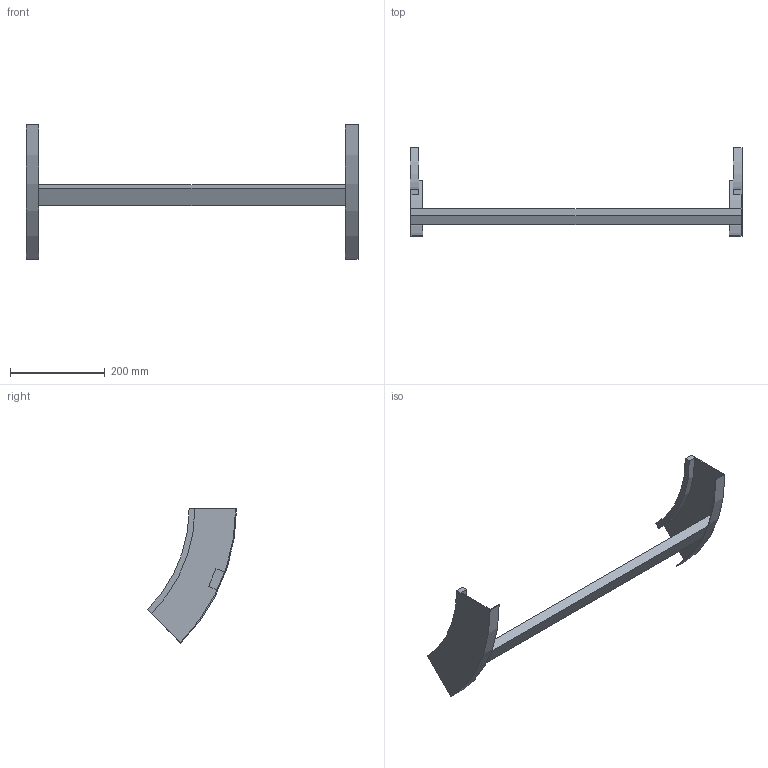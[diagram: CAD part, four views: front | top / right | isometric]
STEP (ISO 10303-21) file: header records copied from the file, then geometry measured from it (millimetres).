
FILE_DESCRIPTION (( 'STEP AP214' ), '1' );
FILE_NAME ('B2X31B3D700XX.step', '2025-03-20T10:05:28', ( '' ), ( '' ), 'SwSTEP 2.0', 'SolidWorks 2023', '' );
FILE_SCHEMA (( 'AUTOMOTIVE_DESIGN' ));
Length unit declared in the file: millimetre
Products named in the file (3): B2X31B3D700XX; TRAVERSINO_700; B2_LONGH.SALITA_45°_H100_R300
Assembly tree (3 placements, depth 2):
  B2X31B3D700XX
    B2_LONGH.SALITA_45°_H100_R300  x2
    TRAVERSINO_700
Bounding box: 700 x 187.87 x 282.84 mm (x, y, z)
Volume: 797340.6 mm3; surface area: 246477.5 mm2
Topology: 3 solids, 3 shells, 26 faces, 60 edges, 40 vertices
Faces by surface type: plane 18, cylinder 8
Entity records: 544 total; most frequent: DIRECTION 88, CARTESIAN_POINT 82, ORIENTED_EDGE 72, EDGE_CURVE 36, AXIS2_PLACEMENT_3D 30, LINE 28, VECTOR 28, VERTEX_POINT 24
